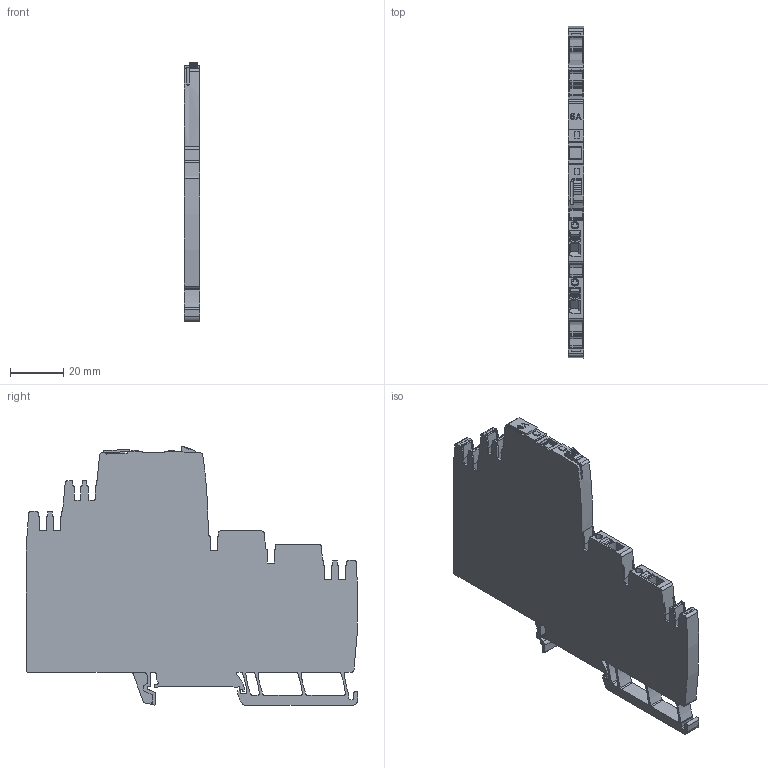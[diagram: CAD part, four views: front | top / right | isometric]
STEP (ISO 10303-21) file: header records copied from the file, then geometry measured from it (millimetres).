
FILE_DESCRIPTION(('CATIA V5R24 STEP','CAx-IF Rec.Pracs.--- Model Styling and Organization---1.2---2011-12-15'),'2;1');
FILE_NAME('\\SRVDE107\Germany\WMC\1_WMC_Input\Step_BU_PA\2082310000.stp','2017-09-05T07:46:19+00:00',('Weidmueller Interface'),('WI'),'CATIA Version 5-6 Release 2014 SP4','CATIA V5 STEP AP214','none');
FILE_SCHEMA(('AUTOMOTIVE_DESIGN { 1 0 10303 214 1 1 1 1 }'));
Length unit declared in the file: millimetre
Products named in the file (1): 2082310000
Bounding box: 6 x 125.07 x 97.53 mm (x, y, z)
Volume: 46747.3 mm3; surface area: 24197.3 mm2
Topology: 11 solids, 11 shells, 1108 faces, 3269 edges, 2211 vertices
Faces by surface type: plane 608, cylinder 463, extrusion 35, bspline 2
Entity records: 38196 total; most frequent: CARTESIAN_POINT 8358, ORIENTED_EDGE 6538, DIRECTION 4937, EDGE_CURVE 3269, VERTEX_POINT 2211, VECTOR 2187, LINE 2152, AXIS2_PLACEMENT_3D 1840
